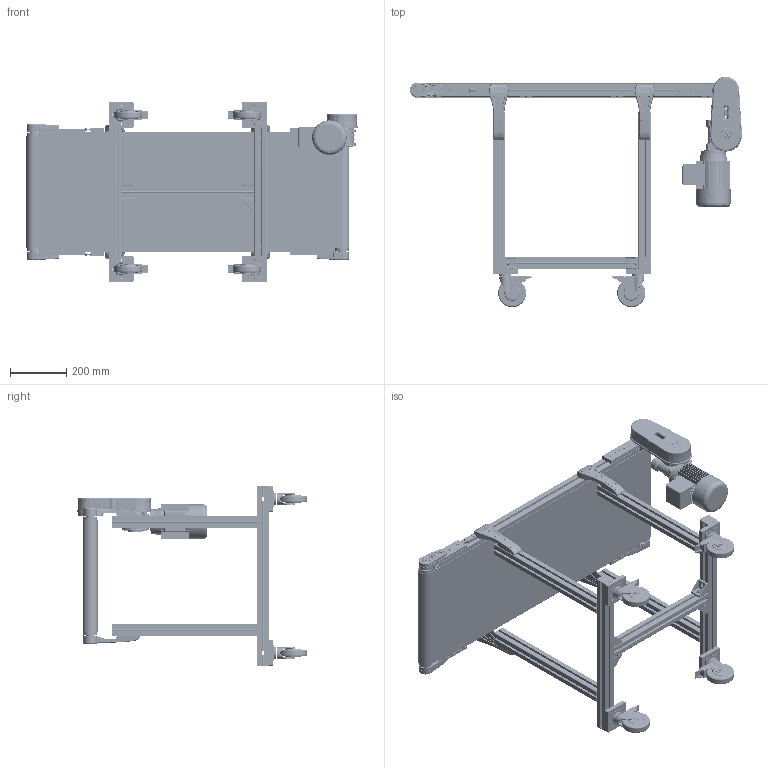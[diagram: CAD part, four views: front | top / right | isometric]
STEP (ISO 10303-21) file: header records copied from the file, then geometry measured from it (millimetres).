
FILE_DESCRIPTION (( 'STEP AP203' ), '1' );
FILE_NAME ('NASTRO_RETTILINEO_TAPPETO.step', '2026-04-23T04:44:25', ( 'Utente Windows' ), ( '' ), 'SwSTEP 2.0', 'SolidWorks 2024', '' );
FILE_SCHEMA (( 'CONFIG_CONTROL_DESIGN' ));
Length unit declared in the file: millimetre
Products named in the file (61): TAPPETO_STANDARD; 084.301.000 VITI ALUSIC1_084.301.003; VITE_RONDELLA_M8X20; CHIAVETTE_A 5x5x20 UNI 6604-69; 084.802.017_084.802.017; VITE_DADO_M5X12; 084.813.004; 084.832.001; 084.802.071; FLANGIA_GAMBA_50; 084.803.012; 084.302.000 DADI ALUSIC 13x13-1_084.302.007; 084.809.001; 084.810.001; VITI TE UNI 5739_M6x12 UNI 5739; NASTRO_RETTILINEO_TAPPETO; 084.802.008; 084.302.000 DADI ALUSIC 13x13-1_084.302.009; 084.803.014; 084.201.012-1; 084.811.004; 084.302.000 DADI ALUSIC 13x13-1_084.302.004; BLOCCO_RINVIO_50_STANDARD; 2010.000.068; CHIAVETTE_A 8x7x25 UNI 6604-69; 084.201.012; ANGOLARE_43; 084.802.034_084.802.034; VITI TSEI UNI 5933_M4x10 UNI 5933; RONDELLE UNI 6592_8.4x17 UNI 6592; 2010.000.068_L; 084.301.000 VITI ALUSIC_084.301.009; LAMIERA_STANDARD; 2010.000.070; TELAIO_50_STANDARD_Default<A macchina>; BLOCCO_TRAINO_50_RINVIATO_CATENA_44_DX_MOTORE A DESTRA; RULLO_50_Default<A macchina>; 2010.000.069; 084.301.000 VITI ALUSIC_084.301.003; 084.303.001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
Assembly tree (150 placements, depth 4):
  NASTRO_RETTILINEO_TAPPETO
    TAPPETO_STANDARD
    TELAIO_50_STANDARD_Default<A macchina>
    LAMIERA_STANDARD
    RULLO_50_Default<A macchina>  x2
    BLOCCO_PERNO_50_RINVIATO
      084.810.001
      084.813.001
      CHIAVETTE_A 8x7x25 UNI 6604-69
      CHIAVETTE_A 5x5x20 UNI 6604-69
    BLOCCO_TRAINO_50_RINVIATO_CATENA_44_DX_MOTORE A DESTRA
      084.802.034_084.802.034
      084.807.001_084.807.001
      084.803.014  x2
      084.813.004
      084.803.012
      084.809.001
      084.301.000 VITI ALUSIC_084.301.003  x2
      084.302.000 DADI ALUSIC 13x13-1_084.302.004  x2
      CHIAVETTE_A 6x6x50 UNI 6604-69
      RONDELLE FASCIA LARGA UNI 6593_5.4x20 UNI 6593
      084.301.000 VITI ALUSIC_084.301.009
      VITI TE UNI 5739_M6x12 UNI 5739  x4
      CHIAVETTE_A 8x7x25 UNI 6604-69
      VITI TE UNI 5739_M8x20 UNI 5739  x4
      084.832.001
    BLOCCO_PERNO_50_RINVIO  x3
      084.811.004
      084.810.001
    BLOCCO_TRAINO_50_STANDARD
      084.807.002_084.807.002
      084.802.017_084.802.017
      084.301.000 VITI ALUSIC_084.301.003  x2
      084.302.000 DADI ALUSIC 13x13-1_084.302.004  x2
      VITI TSEI UNI 5933_M4x12 UNI 5933  x4
      084.802.071
      VITI TSEI UNI 5933 INOX_0412UNI5933A2  x2
    BLOCCO_RINVIO_50_STANDARD  x2
      084.807.002_084.807.002
      084.802.017_084.802.017
      084.802.008
      084.301.000 VITI ALUSIC_084.301.003
      084.302.000 DADI ALUSIC 13x13_084.302.004
      VITI TSEI UNI 5933_M4x10 UNI 5933
      084.802.071
    GAMBE_D50_Default<A macchina>  x2
    FLANGIA_GAMBA_50
      084.302.000 DADI ALUSIC 13x13-1_084.302.004  x4
      RONDELLE UNI 6592_8.4x17 UNI 6592  x3
      084.301.000 VITI ALUSIC_084.301.003  x4
      2010.000.068
        2010.000.068_L
        2010.000.069
        2010.000.070
    FLANGIA_GAMBA_50  x3
      084.302.000 DADI ALUSIC 13x13-1_084.302.004
      RONDELLE UNI 6592_8.4x17 UNI 6592
      084.301.000 VITI ALUSIC_084.301.003
      2010.000.068
        2010.000.068_L
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Bounding box: 1184.75 x 821.6 x 645 mm (x, y, z)
Volume: 12801661.5 mm3; surface area: 8897274.8 mm2
Topology: 316 solids, 325 shells, 15936 faces, 41057 edges, 26272 vertices
Faces by surface type: plane 6258, cylinder 5285, bspline 2015, cone 1389, torus 894, sphere 95
Entity records: 261742 total; most frequent: CARTESIAN_POINT 80573, ORIENTED_EDGE 36660, DIRECTION 35731, EDGE_CURVE 18330, AXIS2_PLACEMENT_3D 13450, VERTEX_POINT 11779, LINE 8831, VECTOR 8831
